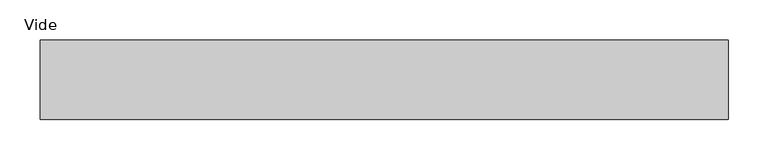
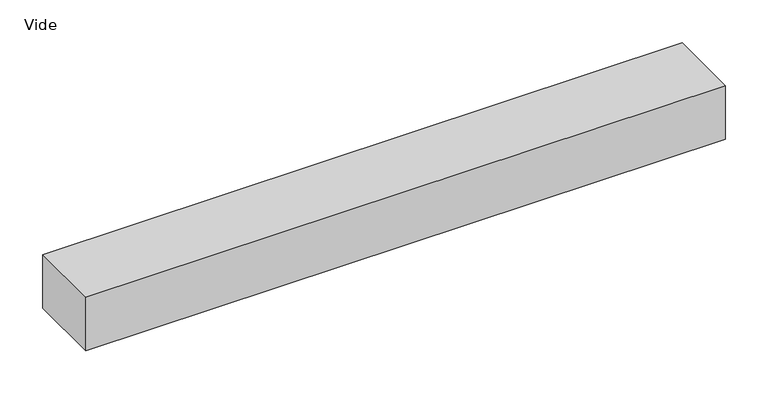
"""IFC4 building model written with IfcOpenShell, lengths in millimetres: plate geometry, Panneau système vide : Vide."""

from ifc_helpers import new_model, si_unit, origin, origin_with_axes, place, context, project, spatial, polyline, outline, extrude, source, transform, mapped, element, save


def vide_271f8b02(model_context):
    return source(origin(), model_context, "Body", "SweptSolid", [
        extrude(outline(polyline([(430.0, 50.0), (-430.0, 50.0), (-430.0, 150.0), (430.0, 150.0), (430.0, 50.0)])), origin_with_axes(), (0.0, 0.0, 1.0), 76.4248737),
    ])


if __name__ == "__main__":
    model = new_model("IFC4")
    model_context = context("Model", 3, world=origin())
    ifc_project = project(units=[si_unit("LENGTHUNIT", "METRE", prefix="MILLI")], contexts=[model_context])
    site = spatial("IfcSite", under=ifc_project)
    building = spatial("IfcBuilding", under=site)
    placement = place(None, origin())
    vide_shape = vide_271f8b02(model_context)
    element("IfcPlate", 1, ObjectType="Panneau système vide : Vide", at=placement, inside=building, context=model_context, shape_type="MappedRepresentation", body=[
        mapped(vide_shape, transform((0.0, 0.0, 0.0), x_axis=(1.0, 0.0, 0.0), y_axis=(0.0, 1.0, 0.0), z_axis=(0.0, 0.0, 1.0))),
    ])
    save(model, "model.ifc")
